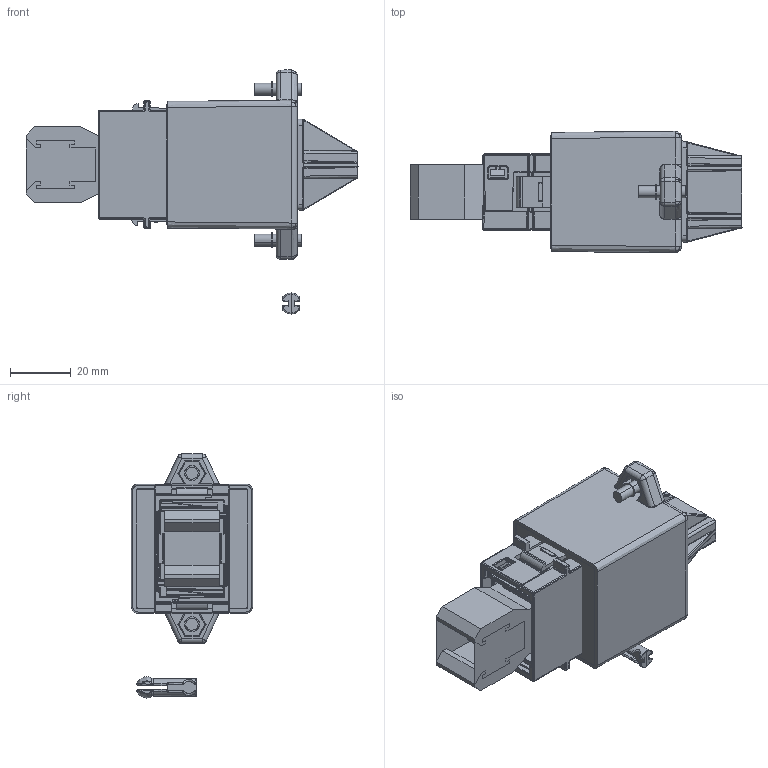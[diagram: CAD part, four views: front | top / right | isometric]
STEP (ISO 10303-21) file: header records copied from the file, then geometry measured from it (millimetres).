
FILE_DESCRIPTION(('CAx-IF Rec.Pracs.---Model Styling and Organization---1.2---2011-12-15','CAx-IF Rec.Pracs.---Geometric and Assembly Validation Properties---4.1---2014-06-16','CAx-IF Rec.Pracs.---PMI Polyline Presentation---2.0---2013-05-24'),'2;1');
FILE_NAME('R5M2WPC25B10.stp','2021-05-05T11:55:03+03:00',(''),(''),'STEP Interface 4.4 by CT CoreTechnologie','3D_Evolution4.4 by CT CoreTechnologie','');
FILE_SCHEMA(('AUTOMOTIVE_DESIGN { 1 0 10303 214 1 1 1 1 }'));
Length unit declared in the file: millimetre
Products named in the file (6): R5M2WPC25B10; V03.ÒÏÀ.08.0041.00.00.0; ÒÏÀ.08.0043.00.00.0; M4 DIN 985 cl.5,0 Zinc_straight; M4x16 DIN 7985 PH cl4,8 Zinc_stright; GSRD10x18
Assembly tree (8 placements, depth 2):
  R5M2WPC25B10
    V03.ÒÏÀ.08.0041.00.00.0
    ÒÏÀ.08.0043.00.00.0  x2
    M4 DIN 985 cl.5,0 Zinc_straight  x2
    M4x16 DIN 7985 PH cl4,8 Zinc_stright  x2
    GSRD10x18
Bounding box: 109.45 x 39.96 x 80.48 mm (x, y, z)
Surface area: 52702.1 mm2 (no closed solid volume)
Topology: 0 solids, 9 shells, 2253 faces, 5828 edges, 3555 vertices
Faces by surface type: cylinder 1046, bspline 707, plane 500
Entity records: 71045 total; most frequent: CARTESIAN_POINT 34876, ORIENTED_EDGE 7683, DIRECTION 7611, EDGE_CURVE 3847, AXIS2_PLACEMENT_3D 2905, VERTEX_POINT 2347, CIRCLE 1941, VECTOR 1801
